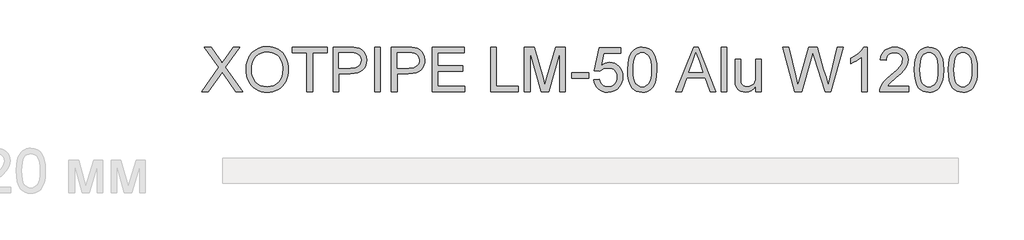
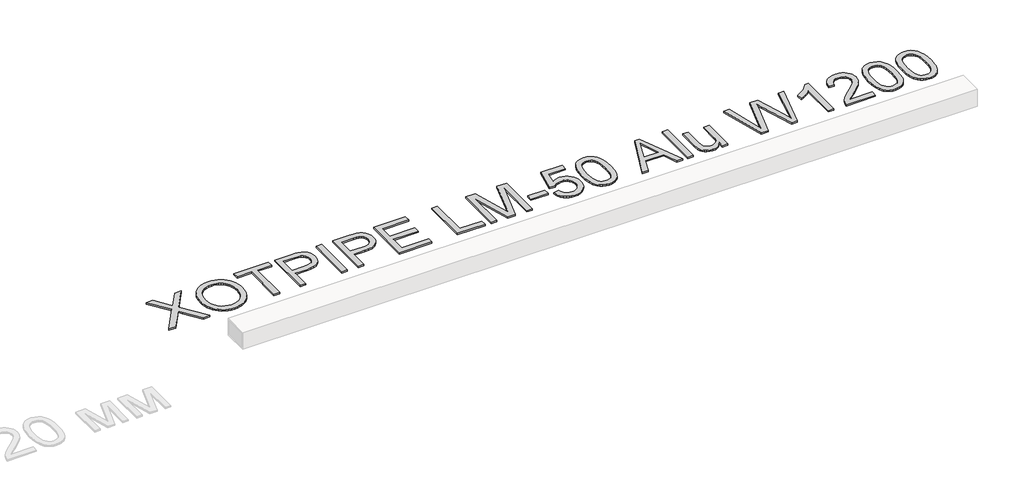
# One storey, part 86 of 86: 1 proxy.
"""IFC4 building model written with IfcOpenShell, lengths in millimetres."""

from ifc_helpers import new_model, si_unit, origin, origin_with_axes, place, context, project, spatial, polyline, outline, extrude, element, save

model = new_model("IFC4")

# Units and contexts
model_context = context("Model", 3, world=origin())
ifc_project = project(units=[si_unit("LENGTHUNIT", "METRE", prefix="MILLI")], contexts=[model_context])

# Site, building, storey
site = spatial("IfcSite", under=ifc_project)
building = spatial("IfcBuilding", under=site)
storey = spatial("IfcBuildingStorey", under=building, Name="Уровень 1", Elevation=0.0)

# Proxy
placement = place(None, origin())
element("IfcBuildingElementProxy", 1, Name="Текст модели 1", ObjectType="Текст модели 1", at=placement, inside=storey, context=model_context, shape_type="SweptSolid", body=[
    extrude(outline(polyline([(113609.6265465, 90543.2937088), (113841.9808146, 90871.7387541), (113647.2976628, 91146.0315697), (113737.6494808, 91146.0315697), (113847.2783154, 90991.6682845), (113873.4347252, 90952.5624284), (113884.2136677, 90931.4827901), (113927.4765903, 90992.6983541), (114035.9282025, 91146.0315697), (114127.6043957, 91146.0315697), (113932.9212438, 90870.8558373), (114165.275512, 90543.2937088), (114074.923694, 90543.2937088), (113920.1189504, 90761.6684611), (113887.8924876, 90806.9915229), (113852.4286633, 90757.2538772), (113701.3027397, 90543.2937088), (113609.6265465, 90543.2937088)])), origin_with_axes(), (0.0, 0.0, 1.0), 20.0),
    extrude(outline(polyline([(114212.3644074, 90836.7163882), (114217.3859966, 90907.4141106), (114232.4507643, 90970.000035), (114257.5587105, 91024.4741614), (114273.8788755, 91048.6693004), (114292.7098351, 91070.8364899), (114335.7980138, 91107.8546156), (114384.7171221, 91134.2961341), (114439.46716, 91150.1610451), (114500.0481276, 91155.4493488), (114540.5979205, 91152.9661453), (114579.1059684, 91145.5165349), (114615.5722711, 91133.1005176), (114649.9968288, 91115.7180933), (114681.4139512, 91093.8934939), (114708.8579481, 91068.1509513), (114732.3288194, 91038.4904655), (114751.8265651, 91004.9120363), (114767.1488502, 90968.1790191), (114778.0933396, 90929.0547689), (114784.6600332, 90887.5392858), (114786.848931, 90843.6325697), (114784.54507, 90799.1464394), (114777.6334871, 90757.0699362), (114766.1141821, 90717.4030601), (114749.9871551, 90680.145811), (114729.6340837, 90646.2822733), (114705.4366455, 90616.7965314), (114677.3948404, 90591.6885853), (114645.5086685, 90570.9584348), (114611.033527, 90554.7348388), (114575.2248133, 90543.146556), (114538.0825274, 90536.1935863), (114499.6066692, 90533.8759297), (114458.3487034, 90536.4373081), (114419.3348179, 90544.1214433), (114382.5650124, 90556.9283352), (114348.0392872, 90574.857984), (114316.658953, 90597.2160122), (114289.3253208, 90623.3080427), (114266.0383905, 90653.1340755), (114246.7981621, 90686.6941105), (114231.7333944, 90722.64078), (114220.9728461, 90759.6267161), (114214.516517, 90797.6519188), (114212.3644074, 90836.7163882)]), holes=[polyline([(114287.70664, 90835.9806242), (114291.4728319, 90786.0314463), (114302.7714077, 90741.6924688), (114321.6023673, 90702.9636918), (114347.9657108, 90669.8451151), (114380.0128311, 90643.3208233), (114415.8951212, 90624.3749005), (114455.6125811, 90613.0073469), (114499.1652108, 90609.2181623), (114543.4628016, 90613.0441351), (114583.649311, 90624.5220533), (114619.7247392, 90643.6519171), (114651.689086, 90670.4337263), (114677.8592914, 90704.2512787), (114696.5522953, 90744.488372), (114707.7680977, 90791.145006), (114711.5066984, 90844.2211809), (114709.9064118, 90878.7009209), (114705.1055517, 90910.9181866), (114697.1041183, 90940.872978), (114685.9021116, 90968.5652952), (114671.6236916, 90993.6318547), (114654.3930187, 91015.7093729), (114634.2100927, 91034.7978499), (114611.0749137, 91050.8972857), (114585.7048517, 91063.6765866), (114558.8172763, 91072.8046586), (114530.4121878, 91078.2815018), (114500.489586, 91080.1071162), (114458.449871, 91076.5892446), (114419.4451825, 91066.0356298), (114383.4755204, 91048.446272), (114350.5408848, 91023.8211709), (114323.0509027, 90990.9739073), (114303.4152012, 90948.7180616), (114291.6337803, 90897.0536339), (114287.70664, 90835.9806242)])]), origin_with_axes(), (0.0, 0.0, 1.0), 20.0),
    extrude(outline(polyline([(115041.1289661, 90543.2937088), (115041.1289661, 91070.6893371), (114843.3556055, 91070.6893371), (114843.3556055, 91146.0315697), (115314.2445593, 91146.0315697), (115314.2445593, 91070.6893371), (115116.4711987, 91070.6893371), (115116.4711987, 90543.2937088), (115041.1289661, 90543.2937088)])), origin_with_axes(), (0.0, 0.0, 1.0), 20.0),
    extrude(outline(polyline([(115399.004571, 90543.2937088), (115399.004571, 91146.0315697), (115622.3825185, 91146.0315697), (115674.4010326, 91144.5968299), (115712.4400309, 91140.2926106), (115752.5943507, 91129.5688504), (115785.6485479, 91112.1128497), (115812.2648103, 91087.1336623), (115833.1053253, 91053.8403417), (115846.5698063, 91014.5689387), (115851.0579667, 90971.655504), (115848.0275388, 90934.6557723), (115838.9362549, 90900.6174907), (115823.7841153, 90869.5406592), (115802.5711197, 90841.4252777), (115773.4486613, 90818.1199533), (115734.5681329, 90801.473293), (115685.9295346, 90791.4852968), (115627.5328664, 90788.1559648), (115474.3468036, 90788.1559648), (115474.3468036, 90543.2937088), (115399.004571, 90543.2937088)]), holes=[polyline([(115474.3468036, 90863.4981974), (115631.9474504, 90863.4981974), (115668.1838269, 90865.2272428), (115698.7548207, 90870.4143789), (115723.6604318, 90879.0596058), (115742.9006601, 90891.1629234), (115757.257255, 90906.4024351), (115767.5119656, 90924.456244), (115773.664792, 90945.3243502), (115775.7157341, 90969.0067536), (115770.8780858, 91002.8518972), (115756.3651411, 91031.39954), (115733.9795217, 91052.8838485), (115705.5238494, 91065.5389892), (115676.4611718, 91069.4017501), (115630.1816168, 91070.6893371), (115474.3468036, 91070.6893371), (115474.3468036, 90863.4981974)])]), origin_with_axes(), (0.0, 0.0, 1.0), 20.0),
    extrude(outline(polyline([(115964.0713156, 90543.2937088), (115964.0713156, 91146.0315697), (116039.4135482, 91146.0315697), (116039.4135482, 90543.2937088), (115964.0713156, 90543.2937088)])), origin_with_axes(), (0.0, 0.0, 1.0), 20.0),
    extrude(outline(polyline([(116190.0980134, 90543.2937088), (116190.0980134, 91146.0315697), (116413.4759609, 91146.0315697), (116465.494475, 91144.5968299), (116503.5334733, 91140.2926106), (116543.6877931, 91129.5688504), (116576.7419904, 91112.1128497), (116603.3582527, 91087.1336623), (116624.1987678, 91053.8403417), (116637.6632488, 91014.5689387), (116642.1514091, 90971.655504), (116639.1209812, 90934.6557723), (116630.0296974, 90900.6174907), (116614.8775577, 90869.5406592), (116593.6645622, 90841.4252777), (116564.5421037, 90818.1199533), (116525.6615753, 90801.473293), (116477.0229771, 90791.4852968), (116418.6263088, 90788.1559648), (116265.4402461, 90788.1559648), (116265.4402461, 90543.2937088), (116190.0980134, 90543.2937088)]), holes=[polyline([(116265.4402461, 90863.4981974), (116423.0408928, 90863.4981974), (116459.2772693, 90865.2272428), (116489.8482631, 90870.4143789), (116514.7538742, 90879.0596058), (116533.9941025, 90891.1629234), (116548.3506974, 90906.4024351), (116558.605408, 90924.456244), (116564.7582344, 90945.3243502), (116566.8091765, 90969.0067536), (116561.9715283, 91002.8518972), (116547.4585836, 91031.39954), (116525.0729642, 91052.8838485), (116496.6172918, 91065.5389892), (116467.5546142, 91069.4017501), (116421.2750592, 91070.6893371), (116265.4402461, 91070.6893371), (116265.4402461, 90863.4981974)])]), origin_with_axes(), (0.0, 0.0, 1.0), 20.0),
    extrude(outline(polyline([(116745.746979, 90543.2937088), (116745.746979, 91146.0315697), (117178.9648165, 91146.0315697), (117178.9648165, 91070.6893371), (116821.0892116, 91070.6893371), (116821.0892116, 90891.7515346), (117160.1292583, 90891.7515346), (117160.1292583, 90816.409302), (116821.0892116, 90816.409302), (116821.0892116, 90618.6359414), (117188.3825956, 90618.6359414), (117188.3825956, 90543.2937088), (116745.746979, 90543.2937088)])), origin_with_axes(), (0.0, 0.0, 1.0), 20.0),
    extrude(outline(polyline([(117536.8404214, 90543.2937088), (117536.8404214, 91146.0315697), (117612.182654, 91146.0315697), (117612.182654, 90618.6359414), (117913.5515844, 90618.6359414), (117913.5515844, 90543.2937088), (117536.8404214, 90543.2937088)])), origin_with_axes(), (0.0, 0.0, 1.0), 20.0),
    extrude(outline(polyline([(117998.3115961, 90543.2937088), (117998.3115961, 91146.0315697), (118127.9532112, 91146.0315697), (118251.267256, 90721.2014417), (118276.1360789, 90632.4683044), (118303.0650409, 90728.5590816), (118424.3189466, 91146.0315697), (118553.9605617, 91146.0315697), (118553.9605617, 90543.2937088), (118478.618329, 90543.2937088), (118478.618329, 91070.6893371), (118327.1980998, 90543.2937088), (118225.074058, 90543.2937088), (118073.6538288, 91070.6893371), (118073.6538288, 90543.2937088), (117998.3115961, 90543.2937088)])), origin_with_axes(), (0.0, 0.0, 1.0), 20.0),
    extrude(outline(polyline([(118638.7205733, 90722.2315113), (118638.7205733, 90797.5737439), (118874.1650503, 90797.5737439), (118874.1650503, 90722.2315113), (118638.7205733, 90722.2315113)])), origin_with_axes(), (0.0, 0.0, 1.0), 20.0),
    extrude(outline(polyline([(118940.0895038, 90703.3959531), (119015.4317364, 90712.8137322), (119021.0603309, 90688.5933013), (119029.2640994, 90667.5826409), (119040.0430419, 90649.7817508), (119053.3971583, 90635.1906312), (119069.2988575, 90623.8276761), (119087.7205485, 90615.7112795), (119108.662231, 90610.8414416), (119132.1239053, 90609.2181623), (119160.8187009, 90611.4760381), (119186.1289822, 90618.2496653), (119208.0547491, 90629.539044), (119226.5960016, 90645.3441743), (119241.3388726, 90664.8833067), (119251.8694947, 90687.3746922), (119258.187868, 90712.8183307), (119260.2939924, 90741.2142222), (119258.3212252, 90768.0512138), (119252.4029236, 90791.9083611), (119242.5390876, 90812.7856644), (119228.7297172, 90830.6831234), (119210.9288272, 90845.0397183), (119189.0904322, 90855.2944289), (119163.2145324, 90861.4472553), (119133.3011277, 90863.4981974), (119096.7520514, 90860.2240476), (119067.1559449, 90850.4015984), (119043.5195267, 90835.3552248), (119024.8495155, 90816.409302), (118949.5072829, 90825.8270811), (119015.4317364, 91136.6137906), (119307.3828878, 91136.6137906), (119307.3828878, 91061.271558), (119076.3529948, 91061.271558), (119044.126532, 90895.2832018), (119070.7152032, 90914.3394891), (119097.9476679, 90927.951123), (119125.8239261, 90936.1181032), (119154.3439778, 90938.84043), (119191.0356083, 90935.4651127), (119224.7381976, 90925.3391608), (119255.4517456, 90908.4625743), (119283.1762525, 90884.8353531), (119306.1274905, 90855.9014342), (119322.5212319, 90823.1047543), (119332.3574767, 90786.4453135), (119335.636225, 90745.9231117), (119332.683972, 90706.8908321), (119323.827213, 90670.5808791), (119309.0659479, 90636.993253), (119288.4001768, 90606.1279536), (119257.093419, 90574.5176931), (119220.5627369, 90551.9389357), (119178.8081305, 90538.3916812), (119131.8295997, 90533.8759297), (119092.9490713, 90536.777599), (119057.8301363, 90545.4826067), (119026.4727948, 90559.9909529), (118998.8770466, 90580.3026375), (118975.9166116, 90605.4059852), (118958.4652095, 90634.2893203), (118946.5228402, 90666.952643), (118940.0895038, 90703.3959531)])), origin_with_axes(), (0.0, 0.0, 1.0), 20.0),
    extrude(outline(polyline([(119401.5606785, 90839.8065969), (119407.0973026, 90936.2836501), (119414.0180826, 90977.1967265), (119423.7071747, 91013.2261694), (119436.123192, 91044.6662845), (119451.2247479, 91071.8113772), (119469.0118424, 91094.6614476), (119489.4844754, 91113.2164957), (119512.7116249, 91127.5730906), (119538.7622686, 91137.8278012), (119567.6364067, 91143.9806276), (119599.3340391, 91146.0315697), (119645.7607469, 91141.1755274), (119687.3314124, 91126.6074004), (119722.0962609, 91102.8974058), (119748.105518, 91070.6157607), (119767.7504165, 91030.0383766), (119783.4221895, 90981.4411651), (119793.6860972, 90919.7289604), (119797.1073998, 90839.8065969), (119791.625958, 90743.8813667), (119784.7741559, 90703.106246), (119775.1816328, 90667.1227884), (119762.8621845, 90635.6688778), (119747.8296065, 90608.4823983), (119730.0838988, 90585.56335), (119709.6250613, 90566.9117329), (119686.3703207, 90552.458569), (119660.2369034, 90542.1348805), (119631.2248096, 90535.9406674), (119599.3340391, 90533.8759297), (119557.8369501, 90537.4627792), (119521.0487506, 90548.2233275), (119488.9694406, 90566.1575748), (119461.5990202, 90591.265521), (119435.3322457, 90636.6529621), (119416.5702639, 90693.2056218), (119405.3130749, 90760.9235001), (119401.5606785, 90839.8065969)]), holes=[polyline([(119476.9029112, 90839.9537497), (119479.1102031, 90774.456959), (119485.732079, 90721.440565), (119496.7685389, 90680.9045676), (119512.2195827, 90652.848967), (119530.907988, 90633.7604899), (119551.6565326, 90620.1258635), (119574.4652163, 90611.9450876), (119599.3340391, 90609.2181623), (119624.202862, 90611.9542847), (119647.0115457, 90620.1626517), (119667.7600903, 90633.8432634), (119686.4484956, 90652.9961198), (119701.8995394, 90681.0977057), (119712.9359993, 90721.624506), (119719.5578752, 90774.5765206), (119721.7651671, 90839.9537497), (119719.6314516, 90903.7168965), (119713.2303049, 90955.79979), (119702.561727, 90996.2024301), (119687.625718, 91024.9248169), (119669.2500123, 91044.9467945), (119648.2623445, 91059.248207), (119624.6627145, 91067.8290546), (119598.4511224, 91070.6893371), (119573.7110582, 91068.1693454), (119551.2886506, 91060.6093704), (119531.1838995, 91048.0094121), (119513.3968051, 91030.3694704), (119497.4307265, 90999.0995008), (119486.0263846, 90956.9402242), (119479.1837795, 90903.8916405), (119476.9029112, 90839.9537497)])]), origin_with_axes(), (0.0, 0.0, 1.0), 20.0),
    extrude(outline(polyline([(120056.5377828, 90543.2937088), (120297.1326076, 91146.0315697), (120361.2912276, 91146.0315697), (120601.8860524, 90543.2937088), (120522.2763886, 90543.2937088), (120453.2617264, 90731.6492903), (120205.014956, 90731.6492903), (120136.1474465, 90543.2937088), (120056.5377828, 90543.2937088)]), holes=[polyline([(120232.679682, 90806.9915229), (120425.7441531, 90806.9915229), (120371.4447706, 90955.1743906), (120329.2119176, 91070.6893371), (120291.6879541, 90968.1238368), (120232.679682, 90806.9915229)])]), origin_with_axes(), (0.0, 0.0, 1.0), 20.0),
    extrude(outline(polyline([(120672.9608539, 90543.2937088), (120672.9608539, 91146.0315697), (120748.3030865, 91146.0315697), (120748.3030865, 90543.2937088), (120672.9608539, 90543.2937088)])), origin_with_axes(), (0.0, 0.0, 1.0), 20.0),
    extrude(outline(polyline([(121143.8498077, 90543.2937088), (121143.8498077, 90619.3717054), (121116.5897519, 90581.9673035), (121084.8415357, 90555.2498736), (121048.6051591, 90539.2194157), (121007.8806223, 90533.8759297), (120971.1843933, 90537.6283261), (120937.02655, 90548.8855151), (120908.3685426, 90565.8080869), (120888.1718211, 90586.5566314), (120874.5785813, 90611.7565481), (120865.7310193, 90642.0332363), (120861.3164354, 90712.0779682), (120861.3164354, 90985.9293254), (120936.658668, 90985.9293254), (120936.658668, 90747.5417925), (120937.7991022, 90699.8642859), (120941.2204048, 90670.7280319), (120952.2016823, 90645.105051), (120971.0188464, 90625.6256993), (120996.4210981, 90613.3200466), (121027.1576388, 90609.2181623), (121059.6600131, 90613.4120171), (121090.06546, 90625.9935813), (121115.136618, 90645.8040268), (121131.6361255, 90671.6845251), (121140.7963871, 90707.1299554), (121143.8498077, 90755.6351964), (121143.8498077, 90985.9293254), (121219.1920403, 90985.9293254), (121219.1920403, 90543.2937088), (121143.8498077, 90543.2937088)])), origin_with_axes(), (0.0, 0.0, 1.0), 20.0),
    extrude(outline(polyline([(121675.5128671, 90543.2937088), (121511.1431917, 91146.0315697), (121588.8398691, 91146.0315697), (121684.1948822, 90749.8962373), (121713.6254418, 90627.6122621), (121745.1161406, 90735.7695687), (121864.6042126, 91146.0315697), (121976.587492, 91146.0315697), (122063.4076428, 90848.6357648), (122100.6005126, 90738.2711662), (122128.0077212, 90627.6122621), (122156.555364, 90746.3645701), (122252.793294, 91146.0315697), (122330.4899713, 91146.0315697), (122165.9731431, 90543.2937088), (122085.4805626, 90543.2937088), (121940.9765148, 91008.2965507), (121920.8165815, 91073.1909347), (121898.1550506, 90995.0527989), (121766.4532963, 90543.2937088), (121675.5128671, 90543.2937088)])), origin_with_axes(), (0.0, 0.0, 1.0), 20.0),
    extrude(outline(polyline([(122660.112239, 90543.2937088), (122584.7700064, 90543.2937088), (122584.7700064, 91013.0054402), (122553.3160958, 90987.5664003), (122513.4008993, 90962.1641485), (122471.4991401, 90939.9624701), (122434.0855412, 90924.1251502), (122434.0855412, 90995.3471045), (122493.2593601, 91027.5367791), (122544.5237161, 91065.8332947), (122584.9355533, 91106.5578316), (122611.5518157, 91146.0315697), (122660.112239, 91146.0315697), (122660.112239, 90543.2937088)])), origin_with_axes(), (0.0, 0.0, 1.0), 20.0),
    extrude(outline(polyline([(123225.1789836, 90618.6359414), (123225.1789836, 90543.2937088), (122829.6322624, 90543.2937088), (122831.2877314, 90569.8180007), (122837.7256663, 90595.2386465), (122856.303707, 90635.8344247), (122883.4901865, 90675.2161923), (122922.8167718, 90716.4373698), (122977.8151301, 90762.5513779), (123059.117051, 90834.7666136), (123107.8982035, 90888.0727147), (123122.1260397, 90909.8513288), (123132.2887798, 90931.3356373), (123138.3864239, 90952.5256402), (123140.4189719, 90973.4213376), (123138.501387, 90993.0800317), (123132.7486323, 91011.1476362), (123123.1607078, 91027.624151), (123109.7376135, 91042.5095763), (123093.2243105, 91054.8382216), (123074.3657597, 91063.6443969), (123053.1619612, 91068.928102), (123029.612915, 91070.6893371), (123004.8038729, 91068.9694888), (122982.6159901, 91063.8099438), (122963.0492665, 91055.2107021), (122946.1037021, 91043.1717638), (122932.3954992, 91028.0977991), (122922.5408603, 91010.3934781), (122916.5397852, 90990.0588008), (122914.3922741, 90967.0937672), (122839.0500415, 90976.5115463), (122845.5293631, 91015.4058703), (122857.3153825, 91049.3889696), (122874.4080997, 91078.4608442), (122896.8075147, 91102.6214943), (122923.9985927, 91121.6134023), (122955.4662988, 91135.1790508), (122991.2106332, 91143.31844), (123031.2315958, 91146.0315697), (123071.6112432, 91143.0149373), (123107.5487157, 91133.9650403), (123139.044013, 91118.8818785), (123166.0971352, 91097.7654519), (123187.8251655, 91072.1792592), (123203.3451872, 91043.6867986), (123212.6572002, 91012.2880703), (123215.7612045, 90977.9830743), (123212.4134784, 90941.9490329), (123202.3702999, 90906.5403908), (123184.5464172, 90870.5247435), (123157.8565785, 90832.6696862), (123115.3110258, 90787.4753831), (123049.9200011, 90729.4419984), (122963.247003, 90656.9692453), (122929.2547067, 90618.6359414), (123225.1789836, 90618.6359414)])), origin_with_axes(), (0.0, 0.0, 1.0), 20.0),
    extrude(outline(polyline([(123300.5212162, 90839.8065969), (123306.0578402, 90936.2836501), (123312.9786203, 90977.1967265), (123322.6677123, 91013.2261694), (123335.0837297, 91044.6662845), (123350.1852856, 91071.8113772), (123367.97238, 91094.6614476), (123388.4450131, 91113.2164957), (123411.6721625, 91127.5730906), (123437.7228063, 91137.8278012), (123466.5969444, 91143.9806276), (123498.2945768, 91146.0315697), (123544.7212846, 91141.1755274), (123586.2919501, 91126.6074004), (123621.0567986, 91102.8974058), (123647.0660557, 91070.6157607), (123666.7109542, 91030.0383766), (123682.3827272, 90981.4411651), (123692.6466349, 90919.7289604), (123696.0679374, 90839.8065969), (123690.5864957, 90743.8813667), (123683.7346935, 90703.106246), (123674.1421705, 90667.1227884), (123661.8227222, 90635.6688778), (123646.7901442, 90608.4823983), (123629.0444364, 90585.56335), (123608.585599, 90566.9117329), (123585.3308584, 90552.458569), (123559.1974411, 90542.1348805), (123530.1853473, 90535.9406674), (123498.2945768, 90533.8759297), (123456.7974878, 90537.4627792), (123420.0092883, 90548.2233275), (123387.9299783, 90566.1575748), (123360.5595578, 90591.265521), (123334.2927834, 90636.6529621), (123315.5308016, 90693.2056218), (123304.2736126, 90760.9235001), (123300.5212162, 90839.8065969)]), holes=[polyline([(123375.8634488, 90839.9537497), (123378.0707408, 90774.456959), (123384.6926167, 90721.440565), (123395.7290766, 90680.9045676), (123411.1801204, 90652.848967), (123429.8685257, 90633.7604899), (123450.6170703, 90620.1258635), (123473.425754, 90611.9450876), (123498.2945768, 90609.2181623), (123523.1633997, 90611.9542847), (123545.9720834, 90620.1626517), (123566.7206279, 90633.8432634), (123585.4090333, 90652.9961198), (123600.8600771, 90681.0977057), (123611.8965369, 90721.624506), (123618.5184129, 90774.5765206), (123620.7257048, 90839.9537497), (123618.5919893, 90903.7168965), (123612.1908425, 90955.79979), (123601.5222647, 90996.2024301), (123586.5862557, 91024.9248169), (123568.21055, 91044.9467945), (123547.2228822, 91059.248207), (123523.6232522, 91067.8290546), (123497.41166, 91070.6893371), (123472.6715959, 91068.1693454), (123450.2491883, 91060.6093704), (123430.1444372, 91048.0094121), (123412.3573428, 91030.3694704), (123396.3912642, 90999.0995008), (123384.9869223, 90956.9402242), (123378.1443172, 90903.8916405), (123375.8634488, 90839.9537497)])]), origin_with_axes(), (0.0, 0.0, 1.0), 20.0),
    extrude(outline(polyline([(123761.992391, 90839.8065969), (123767.529015, 90936.2836501), (123774.449795, 90977.1967265), (123784.1388871, 91013.2261694), (123796.5549044, 91044.6662845), (123811.6564603, 91071.8113772), (123829.4435548, 91094.6614476), (123849.9161878, 91113.2164957), (123873.1433373, 91127.5730906), (123899.1939811, 91137.8278012), (123928.0681192, 91143.9806276), (123959.7657516, 91146.0315697), (124006.1924594, 91141.1755274), (124047.7631248, 91126.6074004), (124082.5279734, 91102.8974058), (124108.5372304, 91070.6157607), (124128.182129, 91030.0383766), (124143.853902, 90981.4411651), (124154.1178096, 90919.7289604), (124157.5391122, 90839.8065969), (124152.0576705, 90743.8813667), (124145.2058683, 90703.106246), (124135.6133453, 90667.1227884), (124123.293897, 90635.6688778), (124108.2613189, 90608.4823983), (124090.5156112, 90585.56335), (124070.0567737, 90566.9117329), (124046.8020331, 90552.458569), (124020.6686159, 90542.1348805), (123991.656522, 90535.9406674), (123959.7657516, 90533.8759297), (123918.2686625, 90537.4627792), (123881.480463, 90548.2233275), (123849.401153, 90566.1575748), (123822.0307326, 90591.265521), (123795.7639581, 90636.6529621), (123777.0019764, 90693.2056218), (123765.7447873, 90760.9235001), (123761.992391, 90839.8065969)]), holes=[polyline([(123837.3346236, 90839.9537497), (123839.5419156, 90774.456959), (123846.1637915, 90721.440565), (123857.2002513, 90680.9045676), (123872.6512951, 90652.848967), (123891.3397005, 90633.7604899), (123912.088245, 90620.1258635), (123934.8969287, 90611.9450876), (123959.7657516, 90609.2181623), (123984.6345745, 90611.9542847), (124007.4432582, 90620.1626517), (124028.1918027, 90633.8432634), (124046.880208, 90652.9961198), (124062.3312518, 90681.0977057), (124073.3677117, 90721.624506), (124079.9895876, 90774.5765206), (124082.1968796, 90839.9537497), (124080.063164, 90903.7168965), (124073.6620173, 90955.79979), (124062.9934394, 90996.2024301), (124048.0574304, 91024.9248169), (124029.6817248, 91044.9467945), (124008.6940569, 91059.248207), (123985.0944269, 91067.8290546), (123958.8828348, 91070.6893371), (123934.1427706, 91068.1693454), (123911.720363, 91060.6093704), (123891.615612, 91048.0094121), (123873.8285175, 91030.3694704), (123857.8624389, 90999.0995008), (123846.4580971, 90956.9402242), (123839.615492, 90903.8916405), (123837.3346236, 90839.9537497)])]), origin_with_axes(), (0.0, 0.0, 1.0), 20.0),
])

save(model, "model.ifc")
